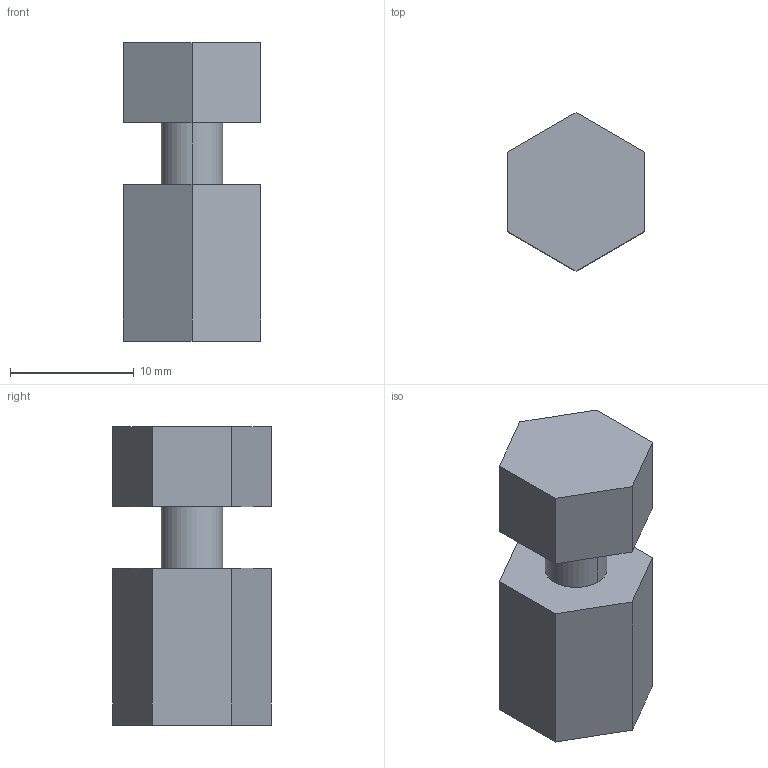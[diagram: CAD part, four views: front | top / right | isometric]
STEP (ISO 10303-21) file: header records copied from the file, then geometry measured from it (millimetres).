
FILE_DESCRIPTION (( 'STEP AP214' ), '1' );
FILE_NAME ('Adapter, Actuator, Desk Top Biolink R01.STEP', '2026-07-27T21:03:38', ( '' ), ( '' ), 'SwSTEP 2.0', 'SolidWorks 2025', '' );
FILE_SCHEMA (( 'AUTOMOTIVE_DESIGN' ));
Length unit declared in the file: inch
Products named in the file (1): Adapter, Actuator, Desk Top Biolink R01
Bounding box: 11.11 x 12.83 x 24.13 mm (x, y, z)
Volume: 1971.4 mm3; surface area: 1341.3 mm2
Topology: 1 solids, 1 shells, 22 faces, 52 edges, 33 vertices
Faces by surface type: plane 16, cylinder 4, cone 2
Entity records: 641 total; most frequent: CARTESIAN_POINT 106, DIRECTION 104, ORIENTED_EDGE 100, EDGE_CURVE 50, VECTOR 42, LINE 42, VERTEX_POINT 33, AXIS2_PLACEMENT_3D 31
